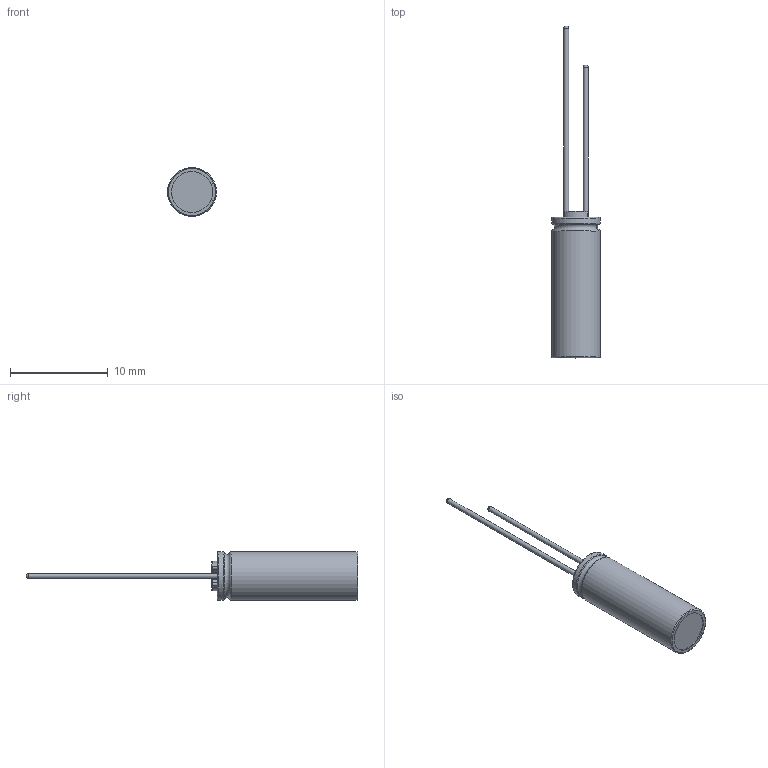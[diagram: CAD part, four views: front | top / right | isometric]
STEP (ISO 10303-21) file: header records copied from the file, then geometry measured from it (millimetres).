
FILE_DESCRIPTION(/* description */ (''),/* implementation_level */ '2;1');
FILE_NAME(/* name */ '5x15_Lead.stp',/* time_stamp */ '2017-09-05T13:38:53+09:00',/* author */ (''),/* organization */ (''),/* preprocessor_version */ 'ST-DEVELOPER v16',/* originating_system */ 'SIEMENS PLM Software NX 11.0',/* authorisation */ '');
FILE_SCHEMA (('AUTOMOTIVE_DESIGN { 1 0 10303 214 3 1 1 1 }'));
Length unit declared in the file: millimetre
Products named in the file (1): 5x15_Lead_0
Bounding box: 4.99 x 34 x 5 mm (x, y, z)
Volume: 287.3 mm3; surface area: 789.8 mm2
Topology: 3 solids, 3 shells, 79 faces, 196 edges, 125 vertices
Faces by surface type: cylinder 32, torus 27, plane 18, sphere 2
Full cylindrical faces by diameter (mm): 0.5 x2, 4.8 x2
Entity records: 2654 total; most frequent: DIRECTION 466, CARTESIAN_POINT 384, ORIENTED_EDGE 368, AXIS2_PLACEMENT_3D 202, EDGE_CURVE 184, CIRCLE 122, VERTEX_POINT 120, EDGE_LOOP 88
